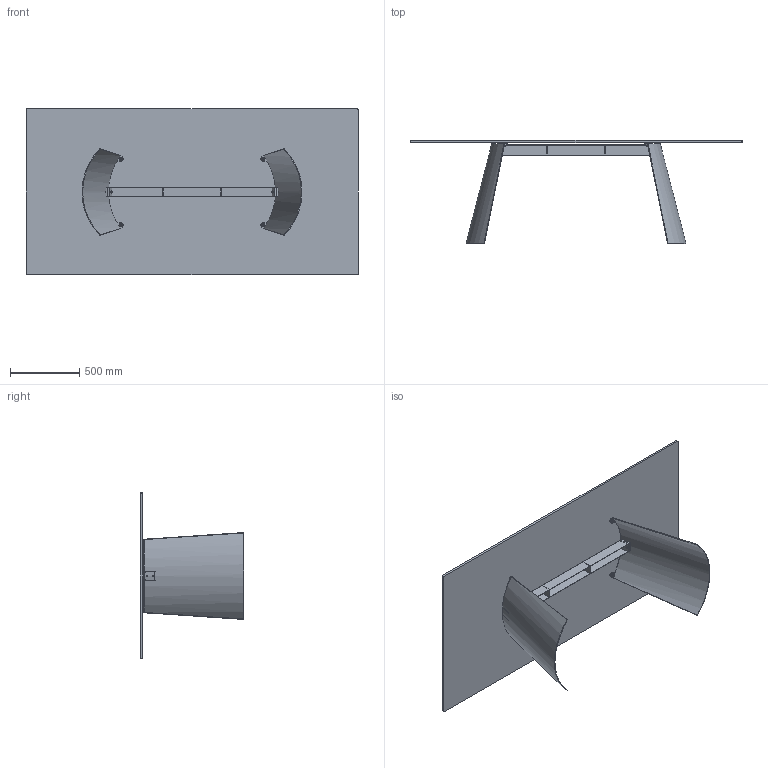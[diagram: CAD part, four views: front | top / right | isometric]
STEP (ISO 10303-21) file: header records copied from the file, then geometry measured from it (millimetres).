
FILE_DESCRIPTION (( 'STEP AP203' ), '1' );
FILE_NAME ('DN23G.STEP', '2024-08-07T15:09:52', ( '' ), ( '' ), 'SwSTEP 2.0', 'SolidWorks 2022', '' );
FILE_SCHEMA (( 'CONFIG_CONTROL_DESIGN' ));
Length unit declared in the file: millimetre
Products named in the file (14): feltro Ø12x3; 434070-00-PIEDINO TPV GOMMA NERO D. 30x8max18; DNB300000_01-02-GAMBA DORIAN; C2XCRXX-00-Piani Rettangolari Cristallo_23 2400x1200; rondella M8X24; GRANO M8X35_barra; DNB400000-02-ASSIEME STRUTTURA COMPLETA_L.1250; DN23G; DNB300000_02-02-RISCONTRO STANGONE CENTRALE; nut_M8_M8; SDNB300000-02-GAMBA X TRASP; rondella M8_8X16; DNBX00000-01-DORIAN TRAVERSO LXXXX PER TAVOLO LX00_L.1250; DNB300000_03-02-PIASTRINA
Assembly tree (37 placements, depth 4):
  DN23G
    C2XCRXX-00-Piani Rettangolari Cristallo_23 2400x1200
    DNB400000-02-ASSIEME STRUTTURA COMPLETA_L.1250
      SDNB300000-02-GAMBA X TRASP  x2
        DNB300000_01-02-GAMBA DORIAN
        DNB300000_02-02-RISCONTRO STANGONE CENTRALE
        DNB300000_03-02-PIASTRINA
      DNBX00000-01-DORIAN TRAVERSO LXXXX PER TAVOLO LX00_L.1250
    434070-00-PIEDINO TPV GOMMA NERO D. 30x8max18  x4
    nut_M8_M8  x8
    rondella M8X24  x4
    GRANO M8X35_barra  x4
    rondella M8_8X16  x4
    feltro Ø12x3  x4
Bounding box: 2400 x 745 x 1200 mm (x, y, z)
Volume: 48953501.7 mm3; surface area: 8411931 mm2
Topology: 46 solids, 46 shells, 582 faces, 1342 edges, 852 vertices
Faces by surface type: plane 252, cylinder 152, torus 80, cone 80, bspline 18
Entity records: 10117 total; most frequent: CARTESIAN_POINT 1995, DIRECTION 1275, ORIENTED_EDGE 1216, EDGE_CURVE 608, AXIS2_PLACEMENT_3D 448, VERTEX_POINT 396, VECTOR 379, LINE 379
